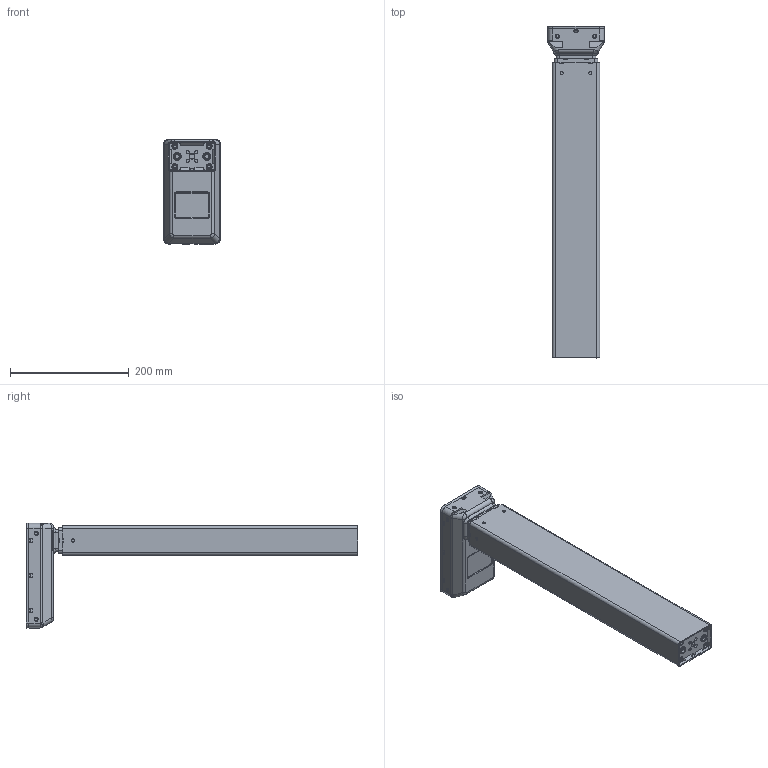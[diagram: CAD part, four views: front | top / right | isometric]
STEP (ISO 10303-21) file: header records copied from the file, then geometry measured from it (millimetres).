
FILE_DESCRIPTION((''),'2;1');
FILE_NAME('DL6_WITHOUT_BRACKET_NEW_ASM','2019-11-05T09:08:06',('egb'),(''),'CREO PARAMETRIC BY PTC INC, 2018400','CREO PARAMETRIC BY PTC INC, 2018400','');
FILE_SCHEMA(('AUTOMOTIVE_DESIGN { 1 0 10303 214 1 1 1 1 }'));
Length unit declared in the file: millimetre
Products named in the file (4): DL6NC_OP_NY; DL6NC_MP; STANDART_MOTORHUS_DL6_14; DL6_WITHOUT_BRACKET_NEW_ASM
Assembly tree (3 placements, depth 2):
  DL6_WITHOUT_BRACKET_NEW_ASM
    DL6NC_OP_NY
    DL6NC_MP
    STANDART_MOTORHUS_DL6_14
Bounding box: 96.5 x 560 x 178.6 mm (x, y, z)
Volume: 4236989.8 mm3; surface area: 314656.6 mm2
Topology: 3 solids, 3 shells, 1114 faces, 3018 edges, 1932 vertices
Faces by surface type: plane 545, cylinder 430, torus 84, bspline 39, sphere 16
Entity records: 44312 total; most frequent: CARTESIAN_POINT 9882, ORIENTED_EDGE 6010, DIRECTION 5791, EDGE_CURVE 3005, AXIS2_PLACEMENT_3D 2032, VERTEX_POINT 1932, VECTOR 1727, LINE 1727
